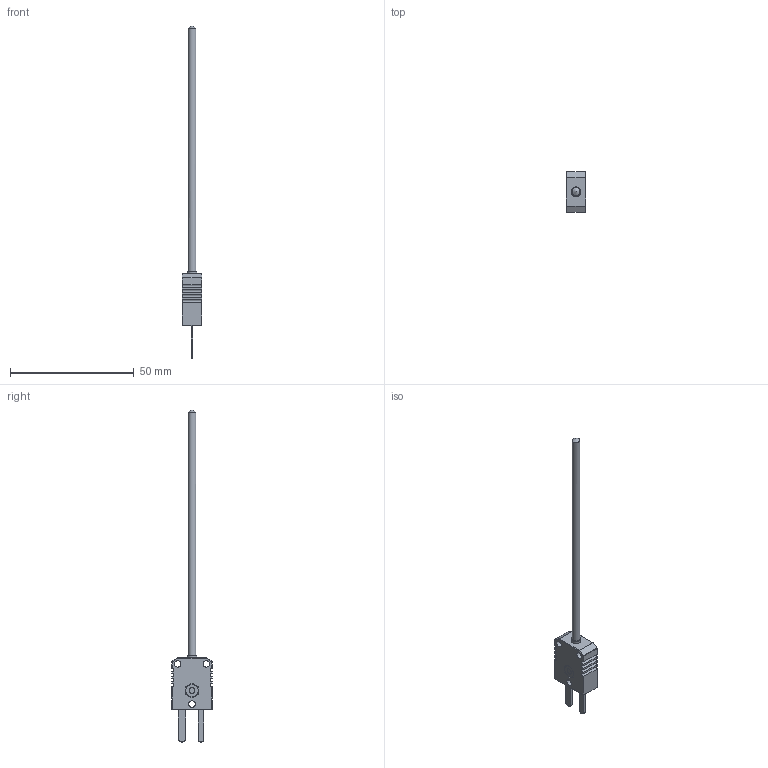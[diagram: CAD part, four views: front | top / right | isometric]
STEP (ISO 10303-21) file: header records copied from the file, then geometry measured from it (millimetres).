
FILE_DESCRIPTION (( 'STEP AP203' ), '1' );
FILE_NAME ('YIT70S-3(0).STEP', '2025-07-30T05:27:19', ( '' ), ( '' ), 'SwSTEP 2.0', 'SolidWorks 2024', '' );
FILE_SCHEMA (( 'CONFIG_CONTROL_DESIGN' ));
Length unit declared in the file: millimetre
Products named in the file (1): YIT70S-3(0)
Bounding box: 8 x 16.5 x 134 mm (x, y, z)
Volume: 3386 mm3; surface area: 2731.5 mm2
Topology: 1 solids, 1 shells, 136 faces, 346 edges, 214 vertices
Faces by surface type: plane 62, cylinder 55, sphere 12, cone 7
Full cylindrical faces by diameter (mm): 2.4 x1, 2.6 x3, 3 x2, 3.2 x1, 4 x1, 5.5 x1
Entity records: 4123 total; most frequent: CARTESIAN_POINT 889, ORIENTED_EDGE 646, DIRECTION 640, EDGE_CURVE 323, AXIS2_PLACEMENT_3D 224, VERTEX_POINT 209, VECTOR 192, LINE 192
